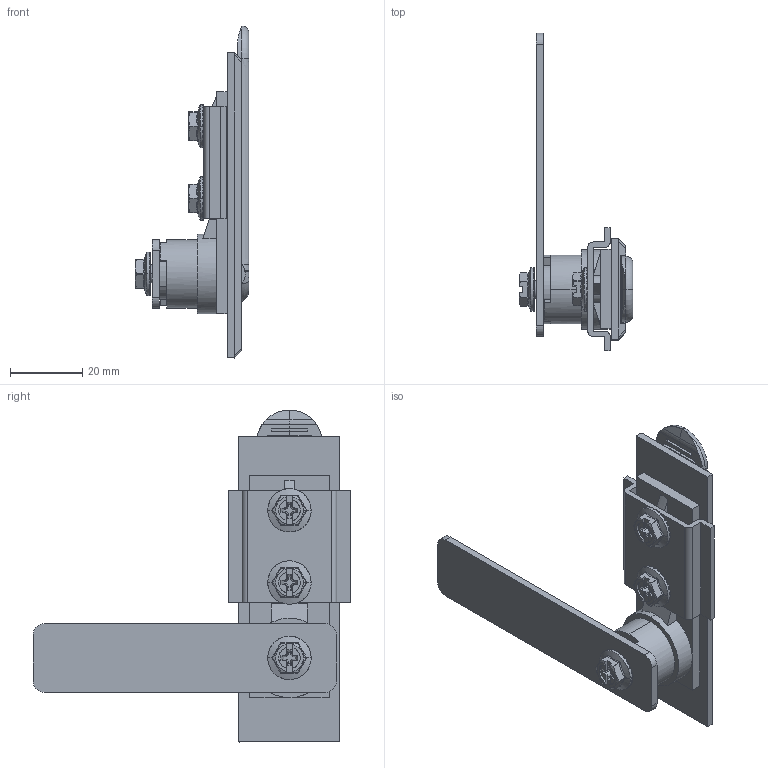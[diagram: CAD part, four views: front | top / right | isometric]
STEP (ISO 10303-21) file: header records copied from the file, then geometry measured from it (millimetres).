
FILE_DESCRIPTION (( 'STEP AP214' ), '1' );
FILE_NAME ('MS717-1.STEP', '2026-07-16T02:22:58', ( '' ), ( '' ), 'SwSTEP 2.0', 'SolidWorks 2020', '' );
FILE_SCHEMA (( 'AUTOMOTIVE_DESIGN' ));
Length unit declared in the file: millimetre
Products named in the file (10): 葩璃 (4) ^_MS717-1(2)_MS717-1; MS717-1; 坶忕; ^MS717-1(2)_MS717-1; 葩璃 (5) ^_MS717-1(2)_MS717-1; ^_MS717-1(2)_MS717-1; 葩璃 (2) ^_MS717-1(2)_MS717-1; MS717-1(2)^MS717-1; 葩璃 (3) ^_MS717-1(2)_MS717-1; 葩璃 (7) ^_MS717-1(2)_MS717-1
Assembly tree (10 placements, depth 4):
  MS717-1
    MS717-1(2)^MS717-1
      ^MS717-1(2)_MS717-1
        ^_MS717-1(2)_MS717-1
        葩璃 (2) ^_MS717-1(2)_MS717-1
        葩璃 (3) ^_MS717-1(2)_MS717-1
        葩璃 (4) ^_MS717-1(2)_MS717-1  x2
        葩璃 (5) ^_MS717-1(2)_MS717-1
        坶忕
        葩璃 (7) ^_MS717-1(2)_MS717-1
Bounding box: 31.5 x 88 x 92 mm (x, y, z)
Volume: 10910.8 mm3; surface area: 22766.5 mm2
Topology: 5 solids, 16 shells, 1677 faces, 4131 edges, 2493 vertices
Faces by surface type: bspline 464, plane 403, cylinder 393, sphere 293, torus 93, cone 31
Entity records: 50948 total; most frequent: CARTESIAN_POINT 27107, ORIENTED_EDGE 6246, EDGE_CURVE 3137, DIRECTION 2868, B_SPLINE_CURVE_WITH_KNOTS 2054, VERTEX_POINT 1912, EDGE_LOOP 1305, FACE_OUTER_BOUND 1266
